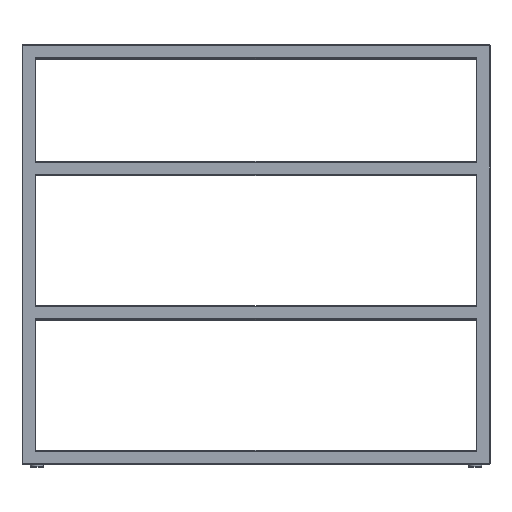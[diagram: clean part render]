
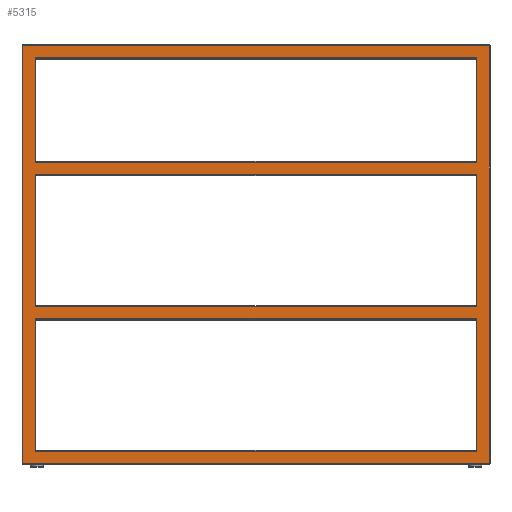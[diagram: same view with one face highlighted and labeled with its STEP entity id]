
A CAD part, top view. The second image highlights one B-rep face of the part: STEP entity #5315.
In plain terms, the highlighted planar face has unit normal (0, 0, 1).
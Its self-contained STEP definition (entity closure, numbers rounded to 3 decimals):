
#92=FACE_BOUND('',#831,.T.);
#93=FACE_BOUND('',#832,.T.);
#94=FACE_BOUND('',#833,.T.);
#215=PLANE('',#5797);
#496=FACE_OUTER_BOUND('',#830,.T.);
#830=EDGE_LOOP('',(#4001,#4002,#4003,#4004));
#831=EDGE_LOOP('',(#4005,#4006,#4007,#4008));
#832=EDGE_LOOP('',(#4009,#4010,#4011,#4012));
#833=EDGE_LOOP('',(#4013,#4014,#4015,#4016));
#1260=LINE('',#8157,#1876);
#1263=LINE('',#8174,#1879);
#1268=LINE('',#8195,#1884);
#1277=LINE('',#8222,#1893);
#1280=LINE('',#8229,#1896);
#1281=LINE('',#8231,#1897);
#1282=LINE('',#8233,#1898);
#1283=LINE('',#8234,#1899);
#1284=LINE('',#8237,#1900);
#1285=LINE('',#8239,#1901);
#1286=LINE('',#8241,#1902);
#1287=LINE('',#8242,#1903);
#1288=LINE('',#8245,#1904);
#1289=LINE('',#8247,#1905);
#1290=LINE('',#8249,#1906);
#1291=LINE('',#8250,#1907);
#1876=VECTOR('',#6547,10.);
#1879=VECTOR('',#6568,10.);
#1884=VECTOR('',#6595,10.);
#1893=VECTOR('',#6632,10.);
#1896=VECTOR('',#6639,10.);
#1897=VECTOR('',#6640,10.);
#1898=VECTOR('',#6641,10.);
#1899=VECTOR('',#6642,10.);
#1900=VECTOR('',#6643,10.);
#1901=VECTOR('',#6644,10.);
#1902=VECTOR('',#6645,10.);
#1903=VECTOR('',#6646,10.);
#1904=VECTOR('',#6647,10.);
#1905=VECTOR('',#6648,10.);
#1906=VECTOR('',#6649,10.);
#1907=VECTOR('',#6650,10.);
#2550=VERTEX_POINT('',#8146);
#2551=VERTEX_POINT('',#8150);
#2558=VERTEX_POINT('',#8169);
#2562=VERTEX_POINT('',#8189);
#2568=VERTEX_POINT('',#8227);
#2569=VERTEX_POINT('',#8228);
#2570=VERTEX_POINT('',#8230);
#2571=VERTEX_POINT('',#8232);
#2572=VERTEX_POINT('',#8235);
#2573=VERTEX_POINT('',#8236);
#2574=VERTEX_POINT('',#8238);
#2575=VERTEX_POINT('',#8240);
#2576=VERTEX_POINT('',#8243);
#2577=VERTEX_POINT('',#8244);
#2578=VERTEX_POINT('',#8246);
#2579=VERTEX_POINT('',#8248);
#3082=EDGE_CURVE('',#2551,#2550,#1260,.T.);
#3091=EDGE_CURVE('',#2550,#2558,#1263,.T.);
#3102=EDGE_CURVE('',#2562,#2551,#1268,.T.);
#3117=EDGE_CURVE('',#2558,#2562,#1277,.T.);
#3120=EDGE_CURVE('',#2568,#2569,#1280,.T.);
#3121=EDGE_CURVE('',#2570,#2568,#1281,.T.);
#3122=EDGE_CURVE('',#2571,#2570,#1282,.T.);
#3123=EDGE_CURVE('',#2569,#2571,#1283,.T.);
#3124=EDGE_CURVE('',#2572,#2573,#1284,.T.);
#3125=EDGE_CURVE('',#2574,#2572,#1285,.T.);
#3126=EDGE_CURVE('',#2575,#2574,#1286,.T.);
#3127=EDGE_CURVE('',#2573,#2575,#1287,.T.);
#3128=EDGE_CURVE('',#2576,#2577,#1288,.T.);
#3129=EDGE_CURVE('',#2578,#2576,#1289,.T.);
#3130=EDGE_CURVE('',#2579,#2578,#1290,.T.);
#3131=EDGE_CURVE('',#2577,#2579,#1291,.T.);
#4001=ORIENTED_EDGE('',*,*,#3082,.F.);
#4002=ORIENTED_EDGE('',*,*,#3102,.F.);
#4003=ORIENTED_EDGE('',*,*,#3117,.F.);
#4004=ORIENTED_EDGE('',*,*,#3091,.F.);
#4005=ORIENTED_EDGE('',*,*,#3120,.F.);
#4006=ORIENTED_EDGE('',*,*,#3121,.F.);
#4007=ORIENTED_EDGE('',*,*,#3122,.F.);
#4008=ORIENTED_EDGE('',*,*,#3123,.F.);
#4009=ORIENTED_EDGE('',*,*,#3124,.F.);
#4010=ORIENTED_EDGE('',*,*,#3125,.F.);
#4011=ORIENTED_EDGE('',*,*,#3126,.F.);
#4012=ORIENTED_EDGE('',*,*,#3127,.F.);
#4013=ORIENTED_EDGE('',*,*,#3128,.F.);
#4014=ORIENTED_EDGE('',*,*,#3129,.F.);
#4015=ORIENTED_EDGE('',*,*,#3130,.F.);
#4016=ORIENTED_EDGE('',*,*,#3131,.F.);
#5315=ADVANCED_FACE('',(#496,#92,#93,#94),#215,.T.);
#5797=AXIS2_PLACEMENT_3D('',#8226,#6637,#6638);
#6547=DIRECTION('',(-1.,0.,0.));
#6568=DIRECTION('',(0.,1.,0.));
#6595=DIRECTION('',(0.,-1.,0.));
#6632=DIRECTION('',(1.,0.,0.));
#6637=DIRECTION('center_axis',(0.,0.,1.));
#6638=DIRECTION('ref_axis',(1.,0.,0.));
#6639=DIRECTION('',(0.,1.,0.));
#6640=DIRECTION('',(1.,0.,0.));
#6641=DIRECTION('',(0.,-1.,0.));
#6642=DIRECTION('',(-1.,0.,0.));
#6643=DIRECTION('',(1.,0.,0.));
#6644=DIRECTION('',(0.,-1.,0.));
#6645=DIRECTION('',(-1.,0.,0.));
#6646=DIRECTION('',(0.,1.,0.));
#6647=DIRECTION('',(0.,1.,0.));
#6648=DIRECTION('',(1.,0.,0.));
#6649=DIRECTION('',(0.,-1.,0.));
#6650=DIRECTION('',(-1.,0.,0.));
#8146=CARTESIAN_POINT('',(-500.,2.,250.));
#8150=CARTESIAN_POINT('',(500.,2.,250.));
#8157=CARTESIAN_POINT('',(-251.,2.,250.));
#8169=CARTESIAN_POINT('',(-500.,898.,250.));
#8174=CARTESIAN_POINT('',(-500.,0.,250.));
#8189=CARTESIAN_POINT('',(500.,898.,250.));
#8195=CARTESIAN_POINT('',(500.,0.,250.));
#8222=CARTESIAN_POINT('',(-499.5,898.,250.));
#8226=CARTESIAN_POINT('Origin',(-502.,0.,250.));
#8227=CARTESIAN_POINT('',(474.,648.,250.));
#8228=CARTESIAN_POINT('',(474.,872.,250.));
#8229=CARTESIAN_POINT('',(474.,15.,250.));
#8230=CARTESIAN_POINT('',(-474.,648.,250.));
#8231=CARTESIAN_POINT('',(-251.,648.,250.));
#8232=CARTESIAN_POINT('',(-474.,872.,250.));
#8233=CARTESIAN_POINT('',(-474.,15.,250.));
#8234=CARTESIAN_POINT('',(-251.,872.,250.));
#8235=CARTESIAN_POINT('',(-474.,28.,250.));
#8236=CARTESIAN_POINT('',(474.,28.,250.));
#8237=CARTESIAN_POINT('',(-251.,28.,250.));
#8238=CARTESIAN_POINT('',(-474.,312.,250.));
#8239=CARTESIAN_POINT('',(-474.,15.,250.));
#8240=CARTESIAN_POINT('',(474.,312.,250.));
#8241=CARTESIAN_POINT('',(-251.,312.,250.));
#8242=CARTESIAN_POINT('',(474.,15.,250.));
#8243=CARTESIAN_POINT('',(474.,338.,250.));
#8244=CARTESIAN_POINT('',(474.,622.,250.));
#8245=CARTESIAN_POINT('',(474.,15.,250.));
#8246=CARTESIAN_POINT('',(-474.,338.,250.));
#8247=CARTESIAN_POINT('',(-251.,338.,250.));
#8248=CARTESIAN_POINT('',(-474.,622.,250.));
#8249=CARTESIAN_POINT('',(-474.,15.,250.));
#8250=CARTESIAN_POINT('',(-251.,622.,250.));
